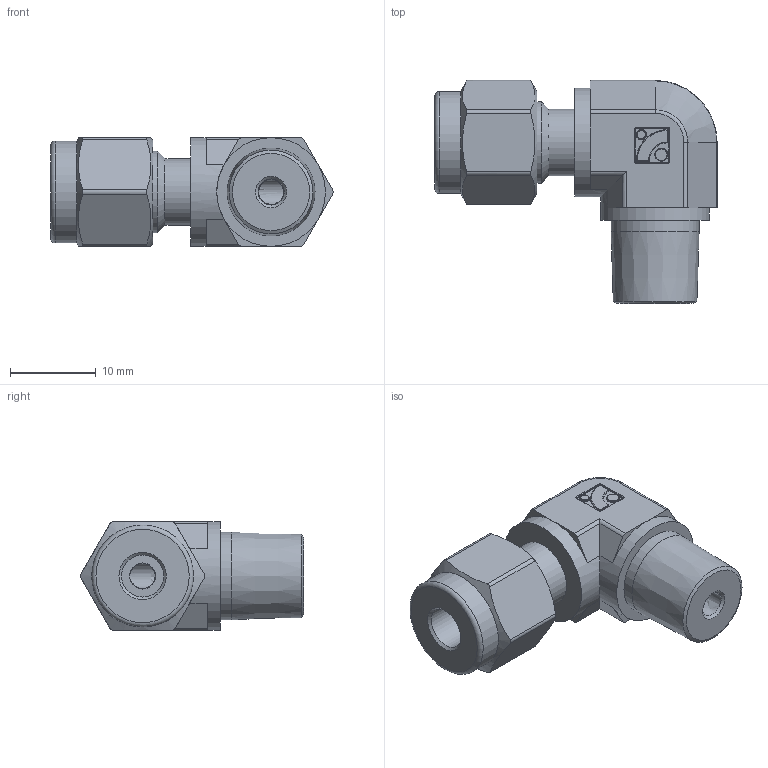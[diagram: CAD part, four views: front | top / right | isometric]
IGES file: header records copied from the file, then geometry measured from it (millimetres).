
Global section: file name: No Iges File Name specified; native system: Autodesk Inventor 2012; preprocessor: AutoDesk Inventor Iges Exporter R2012; author: 硅己绕,,1; organization: 1; date: 20150702.173848; units: millimetre
Bounding box: 32.99 x 26.05 x 12.7 mm (x, y, z)
Volume: 4521.9 mm3; surface area: 2572.2 mm2
Topology: 1 solids, 1 shells, 128 faces, 286 edges, 165 vertices
Faces by surface type: plane 42, cylinder 35, revolution 28, torus 12, cone 7, sphere 4
Full cylindrical faces by diameter (mm): 1.08 x1, 1.44 x1, 7.75 x1, 9.53 x1, 10.28 x1, 11.9 x1, 12.7 x2
